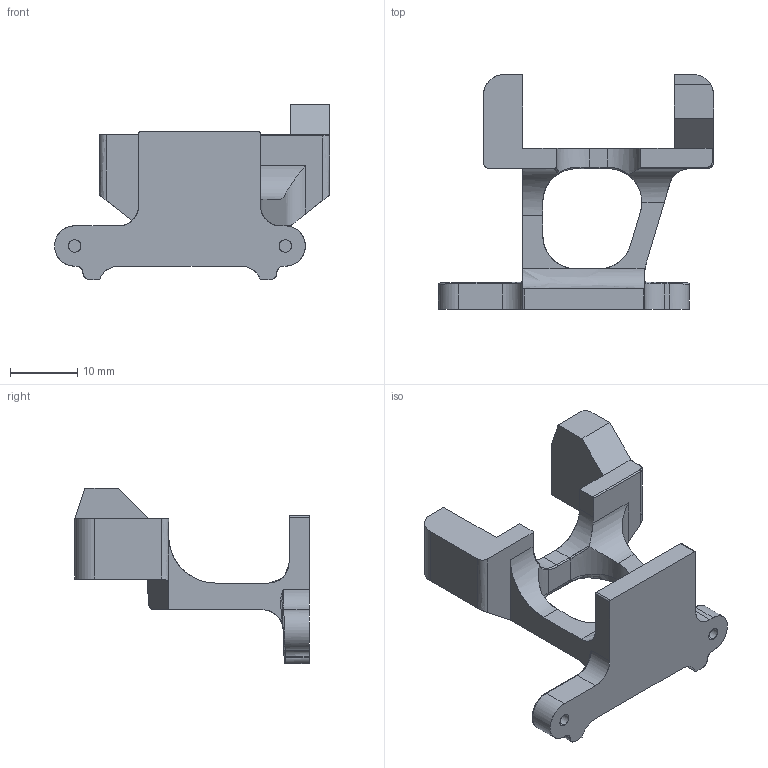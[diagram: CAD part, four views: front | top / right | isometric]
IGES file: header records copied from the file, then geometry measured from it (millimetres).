
Start section: SolidWorks IGES file using analytic representation for surfaces
Global section: file name: C:\Users\Agamemnon\Documents\ASSEM-CAM\CAMTILT-SERVO-MOUNT-R3\CAMTILT-P-SERVO-MOUNT-R3.IGS; native system: SolidWorks 2016; preprocessor: SolidWorks 2016; author: Agamemnon; date: 180621.115512; units: millimetre
Bounding box: 41 x 34.95 x 26.1 mm (x, y, z)
Surface area: 3634.3 mm2 (no closed solid volume)
Topology: 0 solids, 0 shells, 128 faces, 1438 edges, 1436 vertices
Faces by surface type: bspline 73, revolution 55
